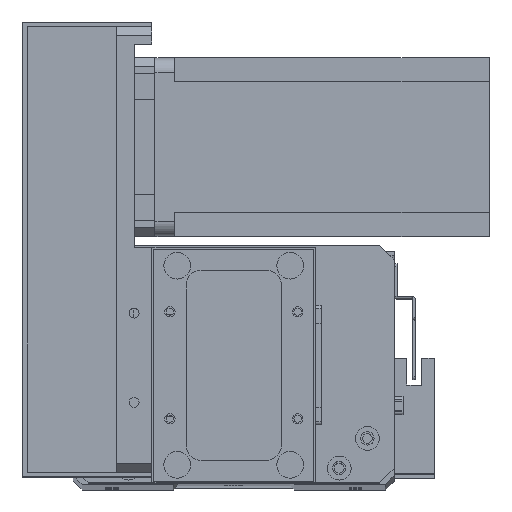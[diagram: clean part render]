
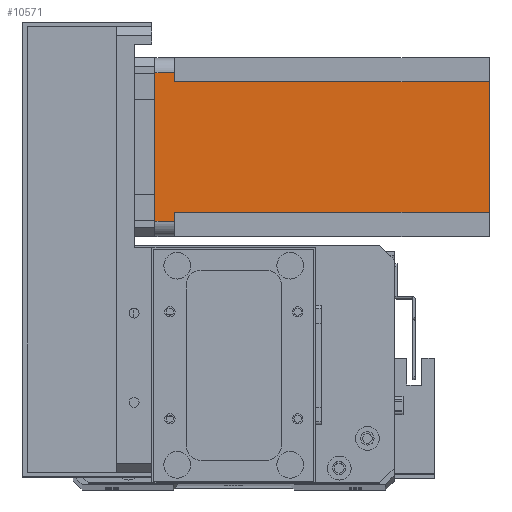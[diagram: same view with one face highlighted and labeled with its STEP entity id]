
A CAD part, top view. The second image highlights one B-rep face of the part: STEP entity #10571.
In plain terms, the highlighted planar face has unit normal (0, 0, 1) as drawn and (0, -1, 0) by its records, which use the part's own axes.
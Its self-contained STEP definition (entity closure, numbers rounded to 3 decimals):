
#20 = ORIENTED_EDGE ( 'NONE', *, *, #19437, .F. ) ;
#149 = PLANE ( 'NONE',  #9054 ) ;
#228 = LINE ( 'NONE', #10264, #25389 ) ;
#251 = VERTEX_POINT ( 'NONE', #7053 ) ;
#1848 = ORIENTED_EDGE ( 'NONE', *, *, #13591, .T. ) ;
#1998 = EDGE_CURVE ( 'NONE', #3813, #2872, #26634, .T. ) ;
#2306 = VERTEX_POINT ( 'NONE', #28818 ) ;
#2872 = VERTEX_POINT ( 'NONE', #22352 ) ;
#3623 = DIRECTION ( 'NONE',  ( 0., 0., 1. ) ) ;
#3813 = VERTEX_POINT ( 'NONE', #9068 ) ;
#4355 = ORIENTED_EDGE ( 'NONE', *, *, #22646, .F. ) ;
#5455 = VERTEX_POINT ( 'NONE', #29224 ) ;
#5515 = CARTESIAN_POINT ( 'NONE',  ( 0., 0., -112.5 ) ) ;
#5889 = ORIENTED_EDGE ( 'NONE', *, *, #28779, .T. ) ;
#7053 = CARTESIAN_POINT ( 'NONE',  ( 52., 0., -112.5 ) ) ;
#7467 = EDGE_CURVE ( 'NONE', #5455, #8828, #20047, .T. ) ;
#8734 = ORIENTED_EDGE ( 'NONE', *, *, #11621, .T. ) ;
#8828 = VERTEX_POINT ( 'NONE', #17736 ) ;
#9054 = AXIS2_PLACEMENT_3D ( 'NONE', #21489, #23847, #9789 ) ;
#9068 = CARTESIAN_POINT ( 'NONE',  ( 52., 0., -6.5 ) ) ;
#9789 = DIRECTION ( 'NONE',  ( 0., 0., -1. ) ) ;
#9838 = EDGE_LOOP ( 'NONE', ( #17895, #8734, #18350, #5889, #20, #20770, #1848, #4355 ) ) ;
#10264 = CARTESIAN_POINT ( 'NONE',  ( 0., 0., 0. ) ) ;
#10571 = ADVANCED_FACE ( 'NONE', ( #21036 ), #149, .T. ) ;
#11324 = LINE ( 'NONE', #18750, #16805 ) ;
#11330 = EDGE_CURVE ( 'NONE', #22590, #28224, #228, .T. ) ;
#11621 = EDGE_CURVE ( 'NONE', #2872, #28224, #29664, .T. ) ;
#12121 = CARTESIAN_POINT ( 'NONE',  ( 8., 0., -6.5 ) ) ;
#12536 = DIRECTION ( 'NONE',  ( 1., 0., 0. ) ) ;
#13591 = EDGE_CURVE ( 'NONE', #5455, #251, #18869, .T. ) ;
#14498 = CARTESIAN_POINT ( 'NONE',  ( 55., 0., -112.5 ) ) ;
#16805 = VECTOR ( 'NONE', #27983, 1000. ) ;
#16871 = CARTESIAN_POINT ( 'NONE',  ( 52., 0., -6.5 ) ) ;
#17418 = DIRECTION ( 'NONE',  ( 1., 0., 0. ) ) ;
#17736 = CARTESIAN_POINT ( 'NONE',  ( 8., 0., -6.5 ) ) ;
#17895 = ORIENTED_EDGE ( 'NONE', *, *, #1998, .T. ) ;
#18135 = VECTOR ( 'NONE', #19611, 1000. ) ;
#18350 = ORIENTED_EDGE ( 'NONE', *, *, #11330, .F. ) ;
#18614 = CARTESIAN_POINT ( 'NONE',  ( 55., 0., 0. ) ) ;
#18750 = CARTESIAN_POINT ( 'NONE',  ( 52., 0., -112.5 ) ) ;
#18869 = LINE ( 'NONE', #5515, #18135 ) ;
#19308 = VECTOR ( 'NONE', #3623, 1000. ) ;
#19437 = EDGE_CURVE ( 'NONE', #8828, #2306, #20400, .T. ) ;
#19611 = DIRECTION ( 'NONE',  ( 1., 0., 0. ) ) ;
#19661 = VECTOR ( 'NONE', #28429, 1000. ) ;
#19709 = VECTOR ( 'NONE', #17418, 1000. ) ;
#20047 = LINE ( 'NONE', #20136, #19308 ) ;
#20136 = CARTESIAN_POINT ( 'NONE',  ( 8., 0., -112.5 ) ) ;
#20400 = LINE ( 'NONE', #12121, #19661 ) ;
#20644 = CARTESIAN_POINT ( 'NONE',  ( 5., 0., -112.5 ) ) ;
#20770 = ORIENTED_EDGE ( 'NONE', *, *, #7467, .F. ) ;
#21036 = FACE_OUTER_BOUND ( 'NONE', #9838, .T. ) ;
#21489 = CARTESIAN_POINT ( 'NONE',  ( 0., 0., -112.5 ) ) ;
#22352 = CARTESIAN_POINT ( 'NONE',  ( 55., 0., -6.5 ) ) ;
#22590 = VERTEX_POINT ( 'NONE', #30110 ) ;
#22646 = EDGE_CURVE ( 'NONE', #3813, #251, #11324, .T. ) ;
#22765 = VECTOR ( 'NONE', #22998, 1000. ) ;
#22998 = DIRECTION ( 'NONE',  ( 0., 0., -1. ) ) ;
#23538 = VECTOR ( 'NONE', #28569, 1000. ) ;
#23847 = DIRECTION ( 'NONE',  ( 0., -1., 0. ) ) ;
#24236 = LINE ( 'NONE', #20644, #22765 ) ;
#25389 = VECTOR ( 'NONE', #12536, 1000. ) ;
#26634 = LINE ( 'NONE', #16871, #19709 ) ;
#27983 = DIRECTION ( 'NONE',  ( 0., 0., -1. ) ) ;
#28224 = VERTEX_POINT ( 'NONE', #18614 ) ;
#28429 = DIRECTION ( 'NONE',  ( -1., 0., 0. ) ) ;
#28569 = DIRECTION ( 'NONE',  ( 0., 0., 1. ) ) ;
#28779 = EDGE_CURVE ( 'NONE', #22590, #2306, #24236, .T. ) ;
#28818 = CARTESIAN_POINT ( 'NONE',  ( 5., 0., -6.5 ) ) ;
#29224 = CARTESIAN_POINT ( 'NONE',  ( 8., 0., -112.5 ) ) ;
#29664 = LINE ( 'NONE', #14498, #23538 ) ;
#30110 = CARTESIAN_POINT ( 'NONE',  ( 5., 0., 0. ) ) ;
